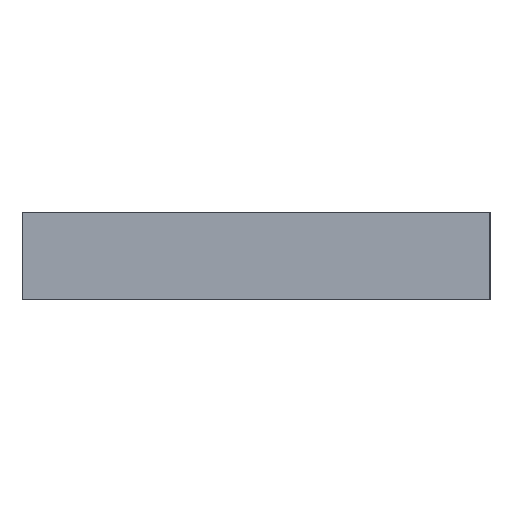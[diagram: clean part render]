
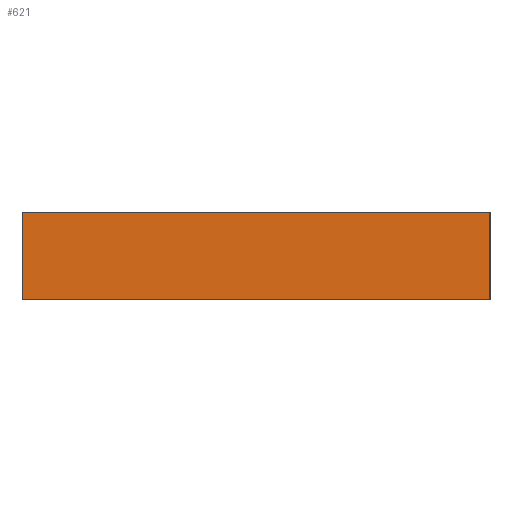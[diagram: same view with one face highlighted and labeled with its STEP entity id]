
A CAD part, left-side view. The second image highlights one B-rep face of the part: STEP entity #621.
In plain terms, the highlighted planar face has unit normal (-1, 0, 0).
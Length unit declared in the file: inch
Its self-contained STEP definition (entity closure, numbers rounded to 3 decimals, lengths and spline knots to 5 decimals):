
#10 = VERTEX_POINT ( 'NONE', #1301 ) ;
#19 = LINE ( 'NONE', #99, #608 ) ;
#99 = CARTESIAN_POINT ( 'NONE',  ( -8.00912, 1.09945, 0. ) ) ;
#104 = CARTESIAN_POINT ( 'NONE',  ( -8.00912, 1.09945, 0. ) ) ;
#158 = DIRECTION ( 'NONE',  ( 0., 0., -1. ) ) ;
#161 = CARTESIAN_POINT ( 'NONE',  ( -8.00912, 1.09945, 0.375 ) ) ;
#275 = ORIENTED_EDGE ( 'NONE', *, *, #1477, .T. ) ;
#291 = AXIS2_PLACEMENT_3D ( 'NONE', #161, #787, #832 ) ;
#303 = CARTESIAN_POINT ( 'NONE',  ( -8.00912, -0.90055, 0.375 ) ) ;
#305 = DIRECTION ( 'NONE',  ( 0., -1., 0. ) ) ;
#444 = CARTESIAN_POINT ( 'NONE',  ( -8.00912, 1.09945, 0.375 ) ) ;
#493 = PLANE ( 'NONE',  #291 ) ;
#562 = EDGE_CURVE ( 'NONE', #10, #1091, #1076, .T. ) ;
#563 = VERTEX_POINT ( 'NONE', #104 ) ;
#608 = VECTOR ( 'NONE', #305, 39.37008 ) ;
#621 = ADVANCED_FACE ( 'NONE', ( #1179 ), #493, .F. ) ;
#627 = EDGE_LOOP ( 'NONE', ( #275, #784, #1372, #1536 ) ) ;
#784 = ORIENTED_EDGE ( 'NONE', *, *, #902, .F. ) ;
#787 = DIRECTION ( 'NONE',  ( 1., 0., 0. ) ) ;
#803 = EDGE_CURVE ( 'NONE', #10, #563, #1429, .T. ) ;
#832 = DIRECTION ( 'NONE',  ( 0., 0., -1. ) ) ;
#902 = EDGE_CURVE ( 'NONE', #1091, #1472, #1521, .T. ) ;
#1076 = LINE ( 'NONE', #444, #1106 ) ;
#1077 = CARTESIAN_POINT ( 'NONE',  ( -8.00912, -0.90055, 0. ) ) ;
#1091 = VERTEX_POINT ( 'NONE', #1295 ) ;
#1106 = VECTOR ( 'NONE', #1214, 39.37008 ) ;
#1179 = FACE_OUTER_BOUND ( 'NONE', #627, .T. ) ;
#1214 = DIRECTION ( 'NONE',  ( 0., -1., 0. ) ) ;
#1224 = DIRECTION ( 'NONE',  ( 0., 0., -1. ) ) ;
#1295 = CARTESIAN_POINT ( 'NONE',  ( -8.00912, -0.90055, 0.375 ) ) ;
#1301 = CARTESIAN_POINT ( 'NONE',  ( -8.00912, 1.09945, 0.375 ) ) ;
#1335 = CARTESIAN_POINT ( 'NONE',  ( -8.00912, 1.09945, 0.375 ) ) ;
#1372 = ORIENTED_EDGE ( 'NONE', *, *, #562, .F. ) ;
#1429 = LINE ( 'NONE', #1335, #1436 ) ;
#1436 = VECTOR ( 'NONE', #1224, 39.37008 ) ;
#1472 = VERTEX_POINT ( 'NONE', #1077 ) ;
#1477 = EDGE_CURVE ( 'NONE', #563, #1472, #19, .T. ) ;
#1521 = LINE ( 'NONE', #303, #1556 ) ;
#1536 = ORIENTED_EDGE ( 'NONE', *, *, #803, .T. ) ;
#1556 = VECTOR ( 'NONE', #158, 39.37008 ) ;
